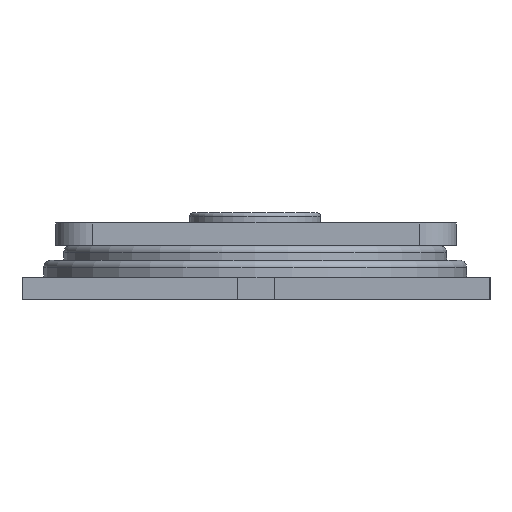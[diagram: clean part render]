
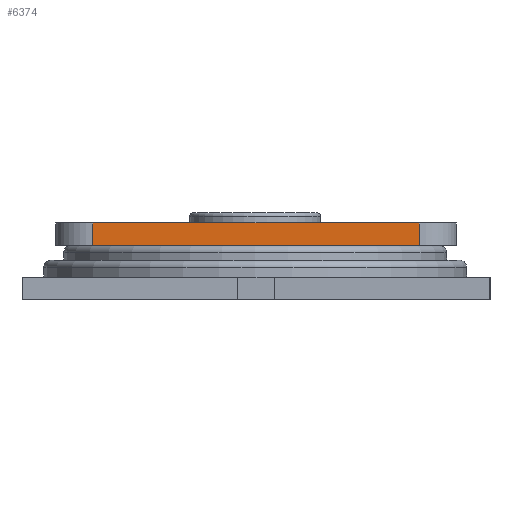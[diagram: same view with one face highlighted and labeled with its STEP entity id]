
A CAD part, left-side view. The second image highlights one B-rep face of the part: STEP entity #6374.
In plain terms, the highlighted planar face has unit normal (-1, 0, 0) as drawn and (0, 1, 0) by its records, which use the part's own axes.
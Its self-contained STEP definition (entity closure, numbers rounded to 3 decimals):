
#110=PLANE('',#6781);
#341=LINE('',#9142,#1099);
#345=LINE('',#9151,#1103);
#354=LINE('',#9182,#1112);
#355=LINE('',#9184,#1113);
#1099=VECTOR('',#7353,10.);
#1103=VECTOR('',#7361,10.);
#1112=VECTOR('',#7394,10.);
#1113=VECTOR('',#7397,10.);
#1965=FACE_OUTER_BOUND('',#2305,.T.);
#2305=EDGE_LOOP('',(#4560,#4561,#4562,#4563));
#2874=VERTEX_POINT('',#9135);
#2877=VERTEX_POINT('',#9140);
#2880=VERTEX_POINT('',#9150);
#2890=VERTEX_POINT('',#9180);
#3524=EDGE_CURVE('',#2877,#2874,#341,.T.);
#3528=EDGE_CURVE('',#2874,#2880,#345,.T.);
#3544=EDGE_CURVE('',#2880,#2890,#354,.T.);
#3545=EDGE_CURVE('',#2877,#2890,#355,.T.);
#4560=ORIENTED_EDGE('',*,*,#3524,.F.);
#4561=ORIENTED_EDGE('',*,*,#3545,.T.);
#4562=ORIENTED_EDGE('',*,*,#3544,.F.);
#4563=ORIENTED_EDGE('',*,*,#3528,.F.);
#6374=ADVANCED_FACE('',(#1965),#110,.T.);
#6781=AXIS2_PLACEMENT_3D('',#9189,#7404,#7405);
#7353=DIRECTION('',(-1.,0.,0.));
#7361=DIRECTION('',(0.,0.,-1.));
#7394=DIRECTION('',(1.,0.,0.));
#7397=DIRECTION('',(0.,0.,-1.));
#7404=DIRECTION('center_axis',(0.,1.,0.));
#7405=DIRECTION('ref_axis',(0.,0.,-1.));
#9135=CARTESIAN_POINT('',(82.106,30.,75.906));
#9140=CARTESIAN_POINT('',(85.106,30.,75.906));
#9142=CARTESIAN_POINT('',(85.106,30.,75.906));
#9150=CARTESIAN_POINT('',(82.106,30.,31.906));
#9151=CARTESIAN_POINT('',(82.106,30.,80.906));
#9180=CARTESIAN_POINT('',(85.106,30.,31.906));
#9182=CARTESIAN_POINT('',(85.106,30.,31.906));
#9184=CARTESIAN_POINT('',(85.106,30.,80.906));
#9189=CARTESIAN_POINT('Origin',(85.106,30.,80.906));
